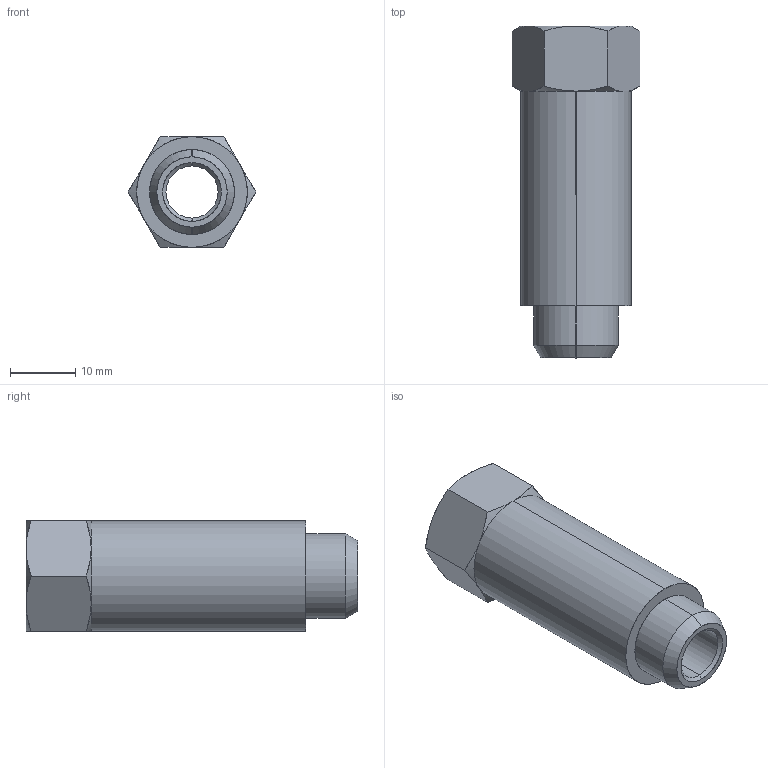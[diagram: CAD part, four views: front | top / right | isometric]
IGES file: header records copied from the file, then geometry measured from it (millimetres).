
Start section: SolidWorks IGES file using analytic representation for surfaces
Global section: file name: K:\Disegni Esecutivi\ACCESSORI\2070\ASSIEMI_.IGES_2070\020700001BM00B.IGS; native system: SolidWorks 2015; preprocessor: SolidWorks 2015; author: cad06; date: 150707.103839; units: millimetre
Bounding box: 19.63 x 51 x 17 mm (x, y, z)
Surface area: 4613.2 mm2 (no closed solid volume)
Topology: 0 solids, 0 shells, 38 faces, 548 edges, 548 vertices
Faces by surface type: revolution 28, bspline 10
